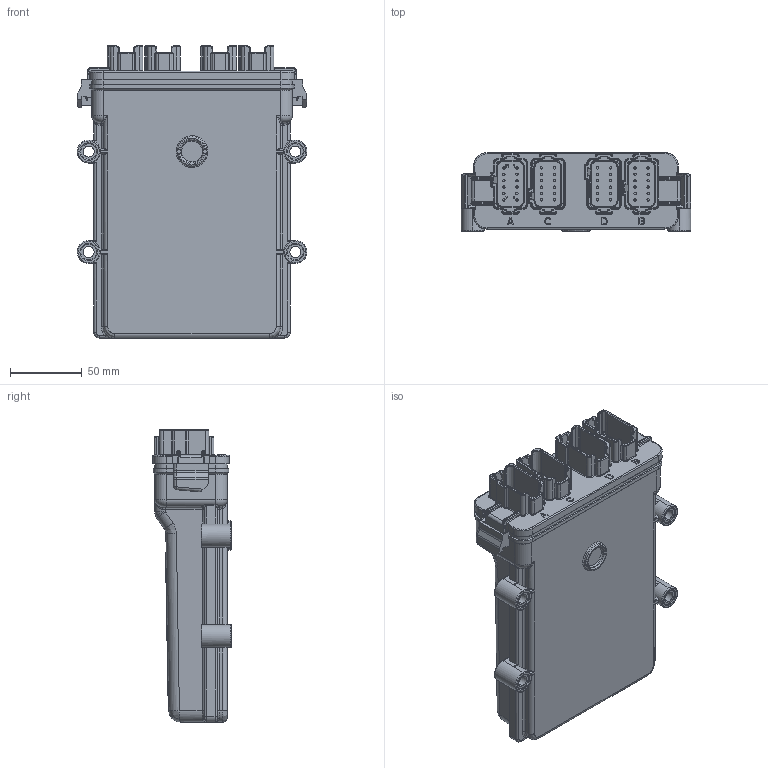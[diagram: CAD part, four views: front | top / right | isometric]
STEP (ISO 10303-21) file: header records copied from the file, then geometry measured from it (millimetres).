
FILE_DESCRIPTION (( 'STEP AP214' ), '1' );
FILE_NAME ('AVDR-J1A4-001.STEP', '2019-04-12T17:31:32', ( '' ), ( '' ), 'SwSTEP 2.0', 'SolidWorks 2014', '' );
FILE_SCHEMA (( 'AUTOMOTIVE_DESIGN' ));
Length unit declared in the file: millimetre
Products named in the file (5): DT13-48PABCD-R015; AVDR-J1A4-001; EEC-5X650B
Assembly tree (2 placements, depth 2):
  DT13-48PABCD-R015
  AVDR-J1A4-001
    DT13-48PABCD-R015
    EEC-5X650B
  EEC-5X650B
Bounding box: 160 x 54.63 x 203.62 mm (x, y, z)
Volume: 943799 mm3; surface area: 147920.8 mm2
Topology: 2 solids, 2 shells, 3405 faces, 8474 edges, 5132 vertices
Faces by surface type: cylinder 1270, plane 1182, bspline 882, cone 48, torus 23
Entity records: 132630 total; most frequent: CARTESIAN_POINT 57432, ORIENTED_EDGE 16820, DIRECTION 14340, EDGE_CURVE 8410, VERTEX_POINT 5132, AXIS2_PLACEMENT_3D 5060, LINE 4220, VECTOR 4220
